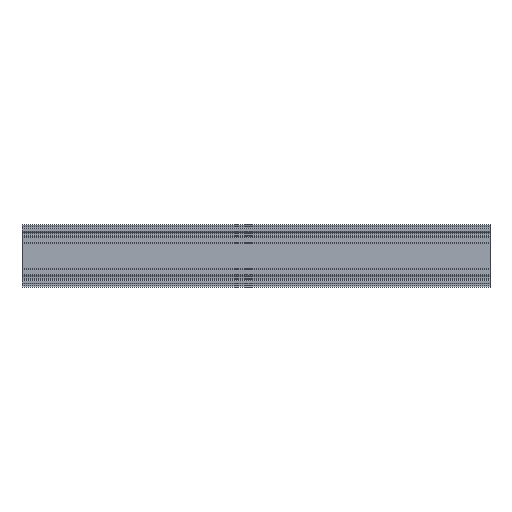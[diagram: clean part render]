
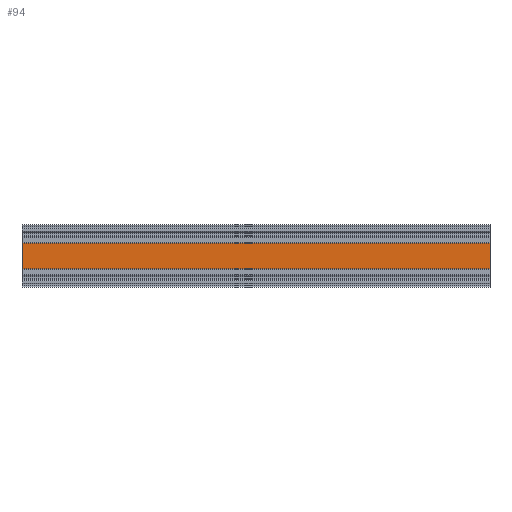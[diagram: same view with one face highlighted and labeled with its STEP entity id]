
A CAD part, front view. The second image highlights one B-rep face of the part: STEP entity #94.
In plain terms, the highlighted planar face has unit normal (0, -1, 0).
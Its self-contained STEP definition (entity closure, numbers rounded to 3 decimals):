
#94 = ADVANCED_FACE( '', ( #226 ), #227, .F. );
#226 = FACE_OUTER_BOUND( '', #450, .T. );
#227 = PLANE( '', #451 );
#450 = EDGE_LOOP( '', ( #875, #876, #877, #878 ) );
#451 = AXIS2_PLACEMENT_3D( '', #879, #880, #881 );
#875 = ORIENTED_EDGE( '', *, *, #1779, .T. );
#876 = ORIENTED_EDGE( '', *, *, #1780, .F. );
#877 = ORIENTED_EDGE( '', *, *, #1652, .F. );
#878 = ORIENTED_EDGE( '', *, *, #1778, .T. );
#879 = CARTESIAN_POINT( '', ( 270., 0.2, 7.273 ) );
#880 = DIRECTION( '', ( 0., 1., 0. ) );
#881 = DIRECTION( '', ( 0., 0., 1. ) );
#1652 = EDGE_CURVE( '', #2000, #2002, #2003, .T. );
#1778 = EDGE_CURVE( '', #2000, #2235, #2237, .T. );
#1779 = EDGE_CURVE( '', #2235, #2238, #2239, .T. );
#1780 = EDGE_CURVE( '', #2002, #2238, #2240, .T. );
#2000 = VERTEX_POINT( '', #2564 );
#2002 = VERTEX_POINT( '', #2566 );
#2003 = LINE( '', #2567, #2568 );
#2235 = VERTEX_POINT( '', #2882 );
#2237 = LINE( '', #2884, #2885 );
#2238 = VERTEX_POINT( '', #2886 );
#2239 = LINE( '', #2887, #2888 );
#2240 = LINE( '', #2889, #2890 );
#2564 = CARTESIAN_POINT( '', ( 270., 0.2, 7.273 ) );
#2566 = CARTESIAN_POINT( '', ( 270., 0.2, -7.273 ) );
#2567 = CARTESIAN_POINT( '', ( 270., 0.2, 7.273 ) );
#2568 = VECTOR( '', #3340, 1000. );
#2882 = CARTESIAN_POINT( '', ( 0., 0.2, 7.273 ) );
#2884 = CARTESIAN_POINT( '', ( 270., 0.2, 7.273 ) );
#2885 = VECTOR( '', #3552, 1000. );
#2886 = CARTESIAN_POINT( '', ( 0., 0.2, -7.273 ) );
#2887 = CARTESIAN_POINT( '', ( 0., 0.2, 7.273 ) );
#2888 = VECTOR( '', #3553, 1000. );
#2889 = CARTESIAN_POINT( '', ( 270., 0.2, -7.273 ) );
#2890 = VECTOR( '', #3554, 1000. );
#3340 = DIRECTION( '', ( 0., 0., -1. ) );
#3552 = DIRECTION( '', ( -1., 0., 0. ) );
#3553 = DIRECTION( '', ( 0., 0., -1. ) );
#3554 = DIRECTION( '', ( -1., 0., 0. ) );
